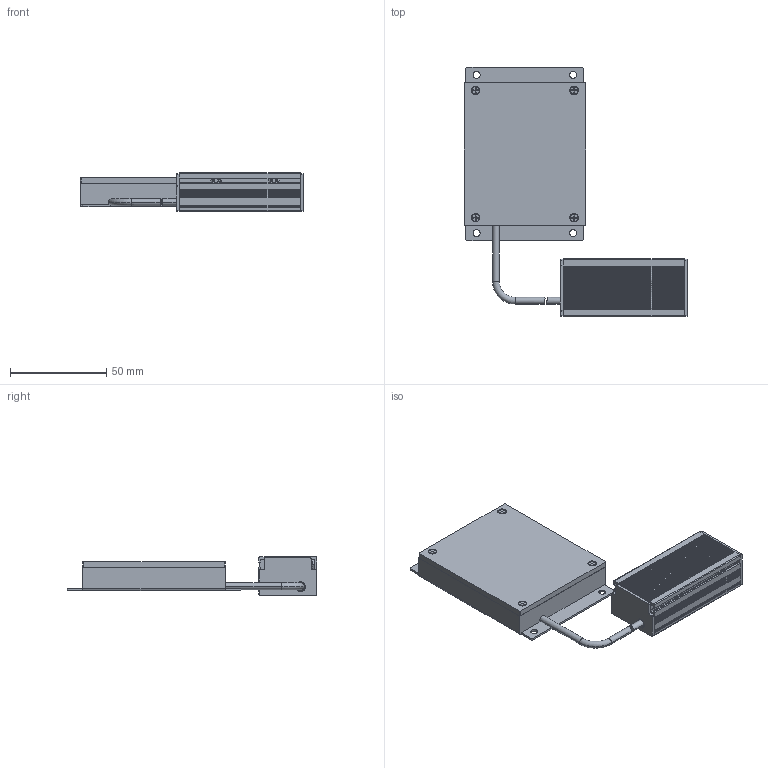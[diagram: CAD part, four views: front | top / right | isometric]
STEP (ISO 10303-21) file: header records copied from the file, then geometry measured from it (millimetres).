
FILE_DESCRIPTION (( 'STEP AP203' ), '1' );
FILE_NAME ('BCBL-60X60x.STEP', '2020-03-25T09:34:10', ( '' ), ( '' ), 'SwSTEP 2.0', 'SolidWorks 2011', '' );
FILE_SCHEMA (( 'CONFIG_CONTROL_DESIGN' ));
Products named in the file (1): BCBL-60X60x
Bounding box: 116.02 x 129.31 x 20 mm (x, y, z)
Surface area: 55087 mm2 (no closed solid volume)
Topology: 0 solids, 397 shells, 4880 faces, 11366 edges, 7311 vertices
Faces by surface type: plane 3560, cylinder 679, bspline 579, cone 60, torus 2
Entity records: 146350 total; most frequent: CARTESIAN_POINT 39260, ORIENTED_EDGE 22584, DIRECTION 19977, EDGE_CURVE 11322, LINE 8913, VECTOR 8913, VERTEX_POINT 7309, AXIS2_PLACEMENT_3D 5532
